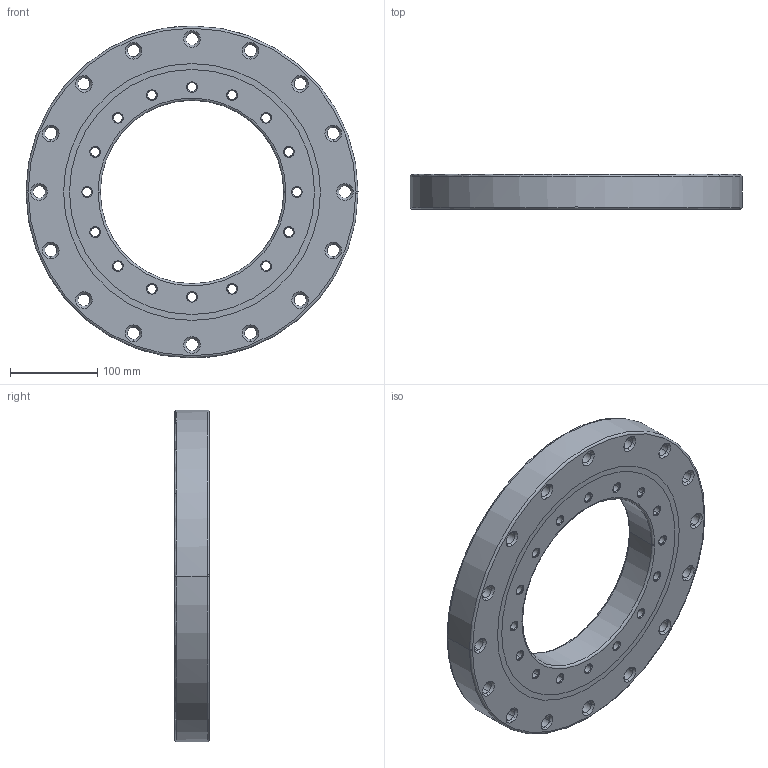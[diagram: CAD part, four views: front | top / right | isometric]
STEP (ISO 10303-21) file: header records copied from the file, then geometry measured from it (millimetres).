
FILE_DESCRIPTION(('no description'),'unknown implementation level');
FILE_NAME('CRBE21040A_69.stp',' ',('HIWIN GmbH'),('CADClick - KiM GmbH - www.kimweb.de'),'unknown preprocess','ACIS','unknown authorization');
FILE_SCHEMA(('automotive_design'));
Length unit declared in the file: millimetre
Products named in the file (36): CRBE21040A_1; CRBE21040A_2; CRBE21040A_3; CRBE21040A_4; CRBE21040A_5; CRBE21040A_6; CRBE21040A_7; CRBE21040A_8; CRBE21040A_9; CRBE21040A_10; CRBE21040A_11; CRBE21040A_12; CRBE21040A_13; CRBE21040A_14; CRBE21040A_15; CRBE21040A_16; CRBE21040A_17; CRBE21040A_18; CRBE21040A_19; CRBE21040A_20; CRBE21040A_21; CRBE21040A_22; CRBE21040A_23; CRBE21040A_24; CRBE21040A_25; CRBE21040A_26; CRBE21040A_27; CRBE21040A_28; CRBE21040A_29; CRBE21040A_30; CRBE21040A_31; CRBE21040A_32; CRBE21040A_33; CRBE21040A_34; CRBE21040A_35; CRBE21040A
Bounding box: 380 x 40 x 380 mm (x, y, z)
Volume: 2728482.2 mm3; surface area: 383943.1 mm2
Topology: 4 solids, 36 shells, 424 faces, 1125 edges, 741 vertices
Faces by surface type: cone 240, cylinder 144, plane 24, torus 16
Entity records: 25894 total; most frequent: DIRECTION 2754, CARTESIAN_POINT 2326, ORIENTED_EDGE 2122, STYLED_ITEM 2070, PRESENTATION_STYLE_ASSIGNMENT 2070, COLOUR_RGB 2070, AXIS2_PLACEMENT_3D 1169, EDGE_CURVE 1125
